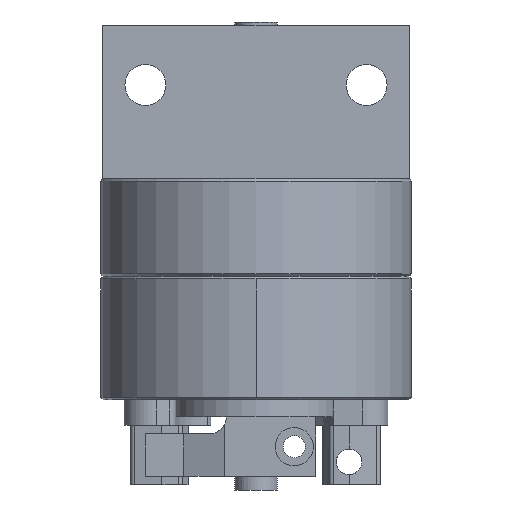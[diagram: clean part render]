
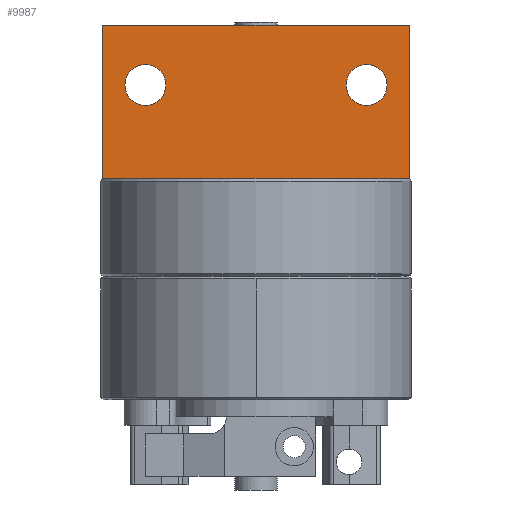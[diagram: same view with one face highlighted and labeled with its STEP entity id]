
A CAD part, front view. The second image highlights one B-rep face of the part: STEP entity #9987.
In plain terms, the highlighted planar face has unit normal (0, -1, 0).
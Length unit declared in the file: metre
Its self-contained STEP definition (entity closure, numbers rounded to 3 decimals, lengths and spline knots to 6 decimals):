
#196 = AXIS2_PLACEMENT_3D ( 'NONE', #1191, #2089, #1036 ) ;
#733 = VERTEX_POINT ( 'NONE', #5549 ) ;
#1036 = DIRECTION ( 'NONE',  ( 0., 0., 1. ) ) ;
#1106 = DIRECTION ( 'NONE',  ( 0., 1., 0. ) ) ;
#1134 = CARTESIAN_POINT ( 'NONE',  ( -0.013, -0.025, 0.0114 ) ) ;
#1173 = CARTESIAN_POINT ( 'NONE',  ( 0.013, -0.025, 0.009 ) ) ;
#1191 = CARTESIAN_POINT ( 'NONE',  ( 0.013, -0.025, 0.009 ) ) ;
#1280 = DIRECTION ( 'NONE',  ( 0., 0., 1. ) ) ;
#1292 = AXIS2_PLACEMENT_3D ( 'NONE', #13033, #12975, #14532 ) ;
#1811 = DIRECTION ( 'NONE',  ( 0., 0., 1. ) ) ;
#1940 = DIRECTION ( 'NONE',  ( 0., 1., 0. ) ) ;
#2089 = DIRECTION ( 'NONE',  ( 0., 1., 0. ) ) ;
#2107 = CARTESIAN_POINT ( 'NONE',  ( -0.018, -0.025, -0.002 ) ) ;
#2535 = FACE_OUTER_BOUND ( 'NONE', #8154, .T. ) ;
#2938 = CARTESIAN_POINT ( 'NONE',  ( -0.013, -0.025, 0.009 ) ) ;
#3208 = ORIENTED_EDGE ( 'NONE', *, *, #7748, .T. ) ;
#3269 = CIRCLE ( 'NONE', #196, 0.0024 ) ;
#3798 = CARTESIAN_POINT ( 'NONE',  ( -0.018, -0.025, 0.016 ) ) ;
#3819 = ORIENTED_EDGE ( 'NONE', *, *, #9572, .T. ) ;
#4063 = ORIENTED_EDGE ( 'NONE', *, *, #7842, .T. ) ;
#4084 = VECTOR ( 'NONE', #11524, 1. ) ;
#4230 = VERTEX_POINT ( 'NONE', #2107 ) ;
#4333 = VECTOR ( 'NONE', #8082, 1. ) ;
#4764 = DIRECTION ( 'NONE',  ( 0., -1., 0. ) ) ;
#4847 = VERTEX_POINT ( 'NONE', #6187 ) ;
#4935 = ORIENTED_EDGE ( 'NONE', *, *, #7251, .T. ) ;
#4956 = DIRECTION ( 'NONE',  ( 0., 0., -1. ) ) ;
#5202 = PLANE ( 'NONE',  #14522 ) ;
#5549 = CARTESIAN_POINT ( 'NONE',  ( 0.013, -0.025, 0.0066 ) ) ;
#6004 = CARTESIAN_POINT ( 'NONE',  ( 0.018, -0.025, -0.002 ) ) ;
#6187 = CARTESIAN_POINT ( 'NONE',  ( 0.018, -0.025, 0.016 ) ) ;
#6394 = VERTEX_POINT ( 'NONE', #14263 ) ;
#7105 = VERTEX_POINT ( 'NONE', #8699 ) ;
#7251 = EDGE_CURVE ( 'NONE', #733, #16501, #3269, .T. ) ;
#7458 = EDGE_CURVE ( 'NONE', #7105, #16734, #7605, .T. ) ;
#7605 = CIRCLE ( 'NONE', #16901, 0.0024 ) ;
#7731 = AXIS2_PLACEMENT_3D ( 'NONE', #1173, #1106, #1280 ) ;
#7748 = EDGE_CURVE ( 'NONE', #16734, #7105, #14361, .T. ) ;
#7776 = LINE ( 'NONE', #11261, #4084 ) ;
#7842 = EDGE_CURVE ( 'NONE', #16501, #733, #13639, .T. ) ;
#7872 = CARTESIAN_POINT ( 'NONE',  ( 0., -0.025, 0.016 ) ) ;
#7990 = EDGE_CURVE ( 'NONE', #4847, #6394, #8499, .T. ) ;
#8082 = DIRECTION ( 'NONE',  ( -1., 0., 0. ) ) ;
#8154 = EDGE_LOOP ( 'NONE', ( #3819, #15621, #8415, #10197 ) ) ;
#8415 = ORIENTED_EDGE ( 'NONE', *, *, #9752, .F. ) ;
#8499 = LINE ( 'NONE', #7872, #4333 ) ;
#8699 = CARTESIAN_POINT ( 'NONE',  ( -0.013, -0.025, 0.0066 ) ) ;
#8883 = LINE ( 'NONE', #13875, #15960 ) ;
#9352 = VERTEX_POINT ( 'NONE', #6004 ) ;
#9526 = FACE_BOUND ( 'NONE', #11273, .T. ) ;
#9572 = EDGE_CURVE ( 'NONE', #6394, #4230, #7776, .T. ) ;
#9663 = EDGE_LOOP ( 'NONE', ( #3208, #10706 ) ) ;
#9699 = EDGE_CURVE ( 'NONE', #4230, #9352, #13217, .T. ) ;
#9752 = EDGE_CURVE ( 'NONE', #4847, #9352, #8883, .T. ) ;
#9754 = VECTOR ( 'NONE', #12798, 1. ) ;
#9987 = ADVANCED_FACE ( 'NONE', ( #9526, #16144, #2535 ), #5202, .T. ) ;
#10197 = ORIENTED_EDGE ( 'NONE', *, *, #7990, .T. ) ;
#10706 = ORIENTED_EDGE ( 'NONE', *, *, #7458, .T. ) ;
#11261 = CARTESIAN_POINT ( 'NONE',  ( -0.018, -0.025, 0.007 ) ) ;
#11273 = EDGE_LOOP ( 'NONE', ( #4063, #4935 ) ) ;
#11524 = DIRECTION ( 'NONE',  ( 0., 0., -1. ) ) ;
#12535 = CARTESIAN_POINT ( 'NONE',  ( 0., -0.025, -0.002 ) ) ;
#12798 = DIRECTION ( 'NONE',  ( 1., 0., 0. ) ) ;
#12975 = DIRECTION ( 'NONE',  ( 0., 1., 0. ) ) ;
#13033 = CARTESIAN_POINT ( 'NONE',  ( -0.013, -0.025, 0.009 ) ) ;
#13217 = LINE ( 'NONE', #12535, #9754 ) ;
#13348 = DIRECTION ( 'NONE',  ( 0., 0., -1. ) ) ;
#13639 = CIRCLE ( 'NONE', #7731, 0.0024 ) ;
#13875 = CARTESIAN_POINT ( 'NONE',  ( 0.018, -0.025, 0.007 ) ) ;
#13951 = CARTESIAN_POINT ( 'NONE',  ( 0.013, -0.025, 0.0114 ) ) ;
#14263 = CARTESIAN_POINT ( 'NONE',  ( -0.018, -0.025, 0.016 ) ) ;
#14361 = CIRCLE ( 'NONE', #1292, 0.0024 ) ;
#14522 = AXIS2_PLACEMENT_3D ( 'NONE', #3798, #4764, #4956 ) ;
#14532 = DIRECTION ( 'NONE',  ( 0., 0., 1. ) ) ;
#15621 = ORIENTED_EDGE ( 'NONE', *, *, #9699, .T. ) ;
#15960 = VECTOR ( 'NONE', #13348, 1. ) ;
#16144 = FACE_BOUND ( 'NONE', #9663, .T. ) ;
#16501 = VERTEX_POINT ( 'NONE', #13951 ) ;
#16734 = VERTEX_POINT ( 'NONE', #1134 ) ;
#16901 = AXIS2_PLACEMENT_3D ( 'NONE', #2938, #1940, #1811 ) ;
